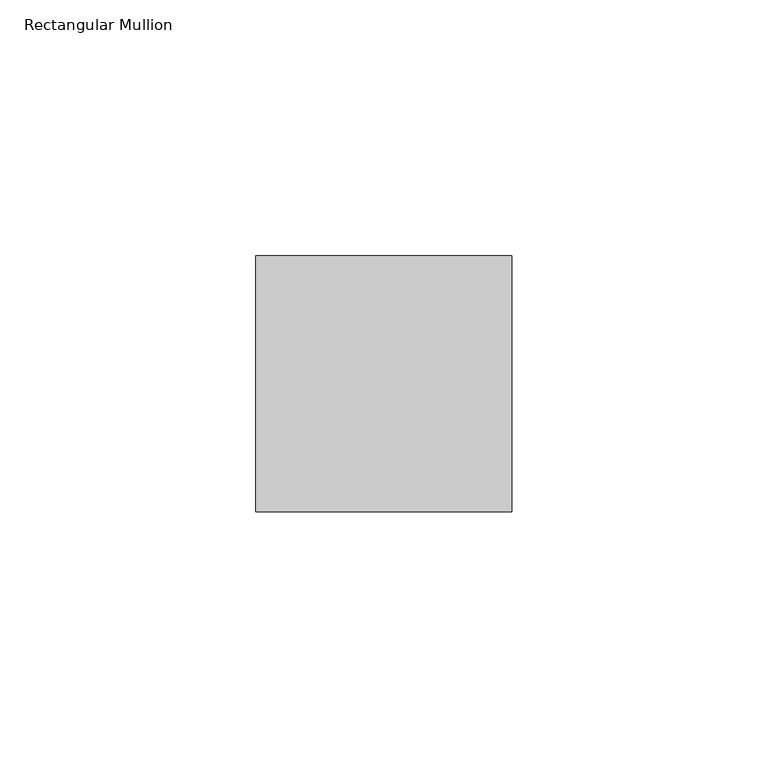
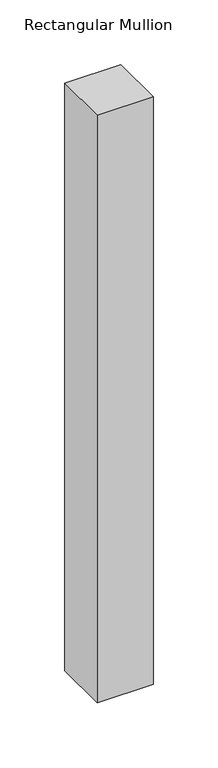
"""IFC4 building model written with IfcOpenShell, lengths in millimetres: member geometry, Rectangular Mullion : RSen_21_CWM_support profile 50x50 - right_gen_duco projects."""

import ifcopenshell
import ifcopenshell.guid

model = None  # the IFC model being written
_history = None  # IfcOwnerHistory: only IFC2X3 demands one
_inside = {}  # id of a spatial element -> (the spatial element, [elements in it])
_under = {}  # id of a project, library or spatial element -> (it, [spatial elements below it])
_declared = {}  # id of a project -> (the project, [libraries it declares])
_typed = {}  # id of a type object -> (the type object, [elements of that type])
_made_of = {}  # id of a material, layer set ... -> (it, [elements and type objects made of it])


def new_model(schema):
    """Start an empty IFC model of exactly this schema.

    Asked for "IFC4X3", IfcOpenShell would pick the latest addendum, in which some entities
    have other attributes; the version numbers below select the first issue.
    IFC2X3 requires an IfcOwnerHistory on every rooted entity: one is made here for all.
    """
    global model, _history
    if schema == "IFC4X3":
        model = ifcopenshell.file(schema_version=(4, 3, 0, 0))
    else:
        model = ifcopenshell.file(schema=schema)
    _inside.clear()
    _under.clear()
    _declared.clear()
    _typed.clear()
    _made_of.clear()
    _history = None
    if model.schema == "IFC2X3":
        org = make("IfcOrganization", Name="unknown")
        user = make(
            "IfcPersonAndOrganization",
            ThePerson=make("IfcPerson", FamilyName="unknown"),
            TheOrganization=org,
        )
        app = make(
            "IfcApplication",
            ApplicationDeveloper=org,
            Version="unknown",
            ApplicationFullName="unknown",
            ApplicationIdentifier="unknown",
        )
        _history = make(
            "IfcOwnerHistory",
            OwningUser=user,
            OwningApplication=app,
            ChangeAction="ADDED",
            CreationDate=0,
        )
    return model


def make(cls, **values):
    """One entity of the class cls with the attributes given. An attribute that is None is left unset."""
    return model.create_entity(
        cls, **{name: value for name, value in values.items() if value is not None}
    )


def rooted(cls, **values):
    """An entity with a GlobalId (a new one), such as an element, a storey or a relation."""
    return make(cls, GlobalId=ifcopenshell.guid.new(), OwnerHistory=_history, **values)


def si_unit(unit_type, name, prefix=None):
    """IfcSIUnit, for example si_unit("LENGTHUNIT", "METRE", prefix="MILLI")."""
    return make("IfcSIUnit", UnitType=unit_type, Prefix=prefix, Name=name)


def assignment(units):
    """IfcUnitAssignment: the units of a project."""
    return None if units is None else make("IfcUnitAssignment", Units=units)


def point(xyz):
    """IfcCartesianPoint."""
    return None if xyz is None else make("IfcCartesianPoint", Coordinates=xyz)


def direction(xyz):
    """IfcDirection."""
    return None if xyz is None else make("IfcDirection", DirectionRatios=xyz)


def frame(location, z_axis=None, x_axis=None):
    """IfcAxis2Placement3D, a coordinate frame: its origin and axes. An axis left out is left unset."""
    return make(
        "IfcAxis2Placement3D",
        Location=point(location),
        Axis=direction(z_axis),
        RefDirection=direction(x_axis),
    )


def origin():
    """The frame at (0, 0, 0) with its axes left unset."""
    return frame((0.0, 0.0, 0.0))


def place(relative_to, where):
    """IfcLocalPlacement: puts the frame where relative to a parent placement (None: the world)."""
    return make(
        "IfcLocalPlacement", PlacementRelTo=relative_to, RelativePlacement=where
    )


def context(
    kind, dimensions, precision=None, world=None, true_north=None, identifier=None
):
    """IfcGeometricRepresentationContext, for example the 3D "Model" context."""
    return make(
        "IfcGeometricRepresentationContext",
        ContextIdentifier=identifier,
        ContextType=kind,
        CoordinateSpaceDimension=dimensions,
        Precision=precision,
        WorldCoordinateSystem=world,
        TrueNorth=true_north,
    )


def project(units=None, contexts=None):
    """IfcProject with its units and contexts."""
    return rooted(
        "IfcProject",
        Name="project",
        RepresentationContexts=contexts,
        UnitsInContext=assignment(units),
    )


def spatial(cls, under=None, at=None, **own):
    """A site, building, storey or space (cls), placed at a placement, below another one or the project."""
    s = rooted(cls, ObjectPlacement=at, **own)
    if under is not None:
        _under.setdefault(under.id(), (under, []))[1].append(s)
    return s


def polyline(points):
    """IfcPolyline through the points."""
    return make("IfcPolyline", Points=[point(p) for p in points])


def outline(outer, holes=None, kind="AREA"):
    """IfcArbitraryClosedProfileDef: a profile drawn as a closed curve; with holes, ...WithVoids."""
    if holes is None:
        return make("IfcArbitraryClosedProfileDef", ProfileType=kind, OuterCurve=outer)
    return make(
        "IfcArbitraryProfileDefWithVoids",
        ProfileType=kind,
        OuterCurve=outer,
        InnerCurves=holes,
    )


def extrude(swept, where, along, depth):
    """IfcExtrudedAreaSolid: the profile swept, set in the frame where, extruded along a direction by depth."""
    return make(
        "IfcExtrudedAreaSolid",
        SweptArea=swept,
        Position=where,
        ExtrudedDirection=direction(along),
        Depth=depth,
    )


def shape(context_of_items, identifier, shape_type, items):
    """IfcShapeRepresentation: the items that make up one representation, for example the "Body"."""
    return make(
        "IfcShapeRepresentation",
        ContextOfItems=context_of_items,
        RepresentationIdentifier=identifier,
        RepresentationType=shape_type,
        Items=items,
    )


def source(mapping_origin, context_of_items, identifier, shape_type, items):
    """IfcRepresentationMap: a shape defined once, which mapped items show again and again."""
    return make(
        "IfcRepresentationMap",
        MappingOrigin=mapping_origin,
        MappedRepresentation=shape(context_of_items, identifier, shape_type, items),
    )


def transform(
    local_origin,
    x_axis=None,
    y_axis=None,
    z_axis=None,
    scale=None,
    scale2=None,
    scale3=None,
    uniform=True,
):
    """IfcCartesianTransformationOperator3D, or its non-uniform kind. x_axis, y_axis, z_axis: its Axis1, 2, 3."""
    if uniform:
        return make(
            "IfcCartesianTransformationOperator3D",
            Axis1=direction(x_axis),
            Axis2=direction(y_axis),
            LocalOrigin=point(local_origin),
            Scale=scale,
            Axis3=direction(z_axis),
        )
    return make(
        "IfcCartesianTransformationOperator3DnonUniform",
        Axis1=direction(x_axis),
        Axis2=direction(y_axis),
        LocalOrigin=point(local_origin),
        Scale=scale,
        Axis3=direction(z_axis),
        Scale2=scale2,
        Scale3=scale3,
    )


def mapped(mapping_source, mapping_target):
    """IfcMappedItem: shows the shape of a source again, moved by a transform."""
    return make(
        "IfcMappedItem", MappingSource=mapping_source, MappingTarget=mapping_target
    )


def made_of(thing, what):
    """Note that an element or type object is made of a material, layer set ...; save() writes the relation."""
    if what is not None:
        _made_of.setdefault(what.id(), (what, []))[1].append(thing)
    return thing


def element(
    cls,
    number,
    at=None,
    inside=None,
    cuts=None,
    type_object=None,
    material=None,
    context=None,
    identifier="Body",
    shape_type=None,
    held_by="IfcProductDefinitionShape",
    body=None,
    shapes=None,
    **own,
):
    """One element of the class cls, such as IfcWall. Its Tag is "e" and its number.

    at: its placement. inside: the storey or other place that contains it. cuts: it is an
    opening in that element (IfcRelVoidsElement). A single representation is given by context,
    identifier, shape_type and body (its items); several are given by shapes. held_by: the class
    of the entity that holds the representations. save() writes the other relations.
    """
    e = rooted(cls, Tag="e%d" % number, ObjectPlacement=at, **own)
    if body is not None:
        shapes = [shape(context, identifier, shape_type, body)]
    if shapes is not None:
        e.Representation = make(held_by, Representations=shapes)
    if inside is not None:
        _inside.setdefault(inside.id(), (inside, []))[1].append(e)
    if cuts is not None:
        rooted(
            "IfcRelVoidsElement", RelatingBuildingElement=cuts, RelatedOpeningElement=e
        )
    if type_object is not None:
        _typed.setdefault(type_object.id(), (type_object, []))[1].append(e)
    return made_of(e, material)


def aggregate(whole, parts):
    """IfcRelAggregates: a whole, such as a stair, and the parts it consists of."""
    return rooted("IfcRelAggregates", RelatingObject=whole, RelatedObjects=parts)


def save(model, path):
    """Write the relations noted so far, then the file.

    IfcRelAggregates (storeys below a building ...), IfcRelContainedInSpatialStructure (elements
    in a storey), IfcRelDefinesByType, IfcRelAssociatesMaterial and IfcRelDeclares: one each for
    every whole, place, type object, material and project.
    """
    for whole, parts in _under.values():
        aggregate(whole, parts)
    for where, things in _inside.values():
        rooted(
            "IfcRelContainedInSpatialStructure",
            RelatedElements=things,
            RelatingStructure=where,
        )
    for kind, things in _typed.values():
        rooted("IfcRelDefinesByType", RelatedObjects=things, RelatingType=kind)
    for what, things in _made_of.values():
        rooted("IfcRelAssociatesMaterial", RelatedObjects=things, RelatingMaterial=what)
    for by, libraries in _declared.values():
        rooted("IfcRelDeclares", RelatingContext=by, RelatedDefinitions=libraries)
    model.write(path)


def rectangular_mullion_4d0e3d15(model_context):
    return source(origin(), model_context, "Body", "SweptSolid", [
        extrude(outline(polyline([(-50.0, 1.0), (0.0, 1.0), (0.0, -49.0), (-50.0, -49.0), (-50.0, 1.0)])), frame((0.0, 0.0, -555.0), z_axis=(0.0, 0.0, 1.0), x_axis=(1.0, 0.0, 0.0)), (0.0, 0.0, 1.0), 555.0),
    ])


if __name__ == "__main__":
    model = new_model("IFC4")
    model_context = context("Model", 3, world=origin())
    ifc_project = project(units=[si_unit("LENGTHUNIT", "METRE", prefix="MILLI")], contexts=[model_context])
    site = spatial("IfcSite", under=ifc_project)
    building = spatial("IfcBuilding", under=site)
    placement = place(None, origin())
    rectangular_mullion_shape = rectangular_mullion_4d0e3d15(model_context)
    element("IfcMember", 1, ObjectType="Rectangular Mullion : RSen_21_CWM_support profile 50x50 - right_gen_duco projects", at=placement, inside=building, context=model_context, shape_type="MappedRepresentation", body=[
        mapped(rectangular_mullion_shape, transform((0.0, 0.0, 0.0), x_axis=(1.0, 0.0, 0.0), y_axis=(0.0, 1.0, 0.0), z_axis=(0.0, 0.0, 1.0))),
    ])
    save(model, "model.ifc")
